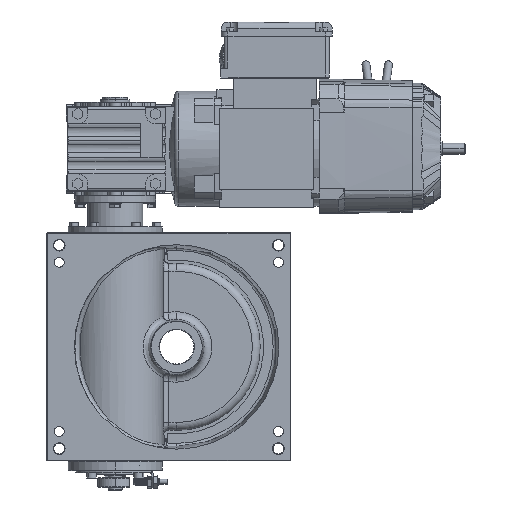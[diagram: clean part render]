
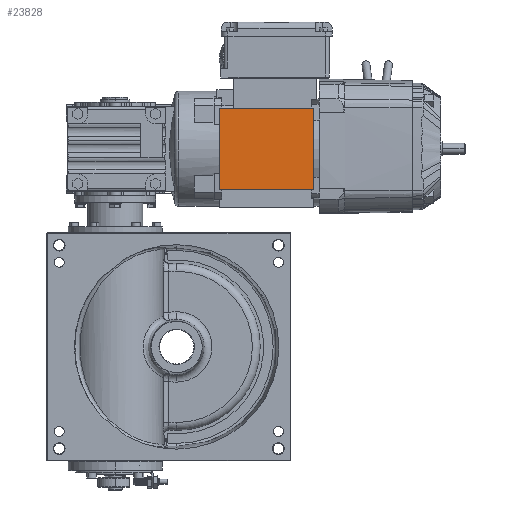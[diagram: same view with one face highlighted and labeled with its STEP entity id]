
A CAD part, front view. The second image highlights one B-rep face of the part: STEP entity #23828.
In plain terms, the highlighted planar face has unit normal (0, -1, 0).
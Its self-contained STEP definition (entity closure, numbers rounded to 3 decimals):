
#334 = LINE ( 'NONE', #1633, #81609 ) ;
#1633 = CARTESIAN_POINT ( 'NONE',  ( 139.5, -31., 243. ) ) ;
#4055 = DIRECTION ( 'NONE',  ( 0., 0., 1. ) ) ;
#5871 = VERTEX_POINT ( 'NONE', #32139 ) ;
#7598 = LINE ( 'NONE', #62001, #28320 ) ;
#8475 = DIRECTION ( 'NONE',  ( -1., 0., 0. ) ) ;
#9428 = CARTESIAN_POINT ( 'NONE',  ( 43.5, -31., 160. ) ) ;
#16356 = ORIENTED_EDGE ( 'NONE', *, *, #74378, .T. ) ;
#18854 = EDGE_CURVE ( 'NONE', #72340, #33586, #77863, .T. ) ;
#20974 = CARTESIAN_POINT ( 'NONE',  ( 139.5, -31., 243. ) ) ;
#22687 = ORIENTED_EDGE ( 'NONE', *, *, #80520, .F. ) ;
#23482 = VECTOR ( 'NONE', #4055, 1000. ) ;
#23828 = ADVANCED_FACE ( 'NONE', ( #75179 ), #47815, .T. ) ;
#28320 = VECTOR ( 'NONE', #8475, 1000. ) ;
#29405 = EDGE_LOOP ( 'NONE', ( #70709, #22687, #50949, #16356 ) ) ;
#30612 = LINE ( 'NONE', #9428, #58373 ) ;
#32139 = CARTESIAN_POINT ( 'NONE',  ( 43.5, -31., 160. ) ) ;
#33586 = VERTEX_POINT ( 'NONE', #20974 ) ;
#42380 = DIRECTION ( 'NONE',  ( -1., 0., 0. ) ) ;
#45680 = VERTEX_POINT ( 'NONE', #70840 ) ;
#47815 = PLANE ( 'NONE',  #73540 ) ;
#47885 = EDGE_CURVE ( 'NONE', #5871, #45680, #30612, .T. ) ;
#50949 = ORIENTED_EDGE ( 'NONE', *, *, #18854, .T. ) ;
#56719 = DIRECTION ( 'NONE',  ( 0., 0., 1. ) ) ;
#58373 = VECTOR ( 'NONE', #56719, 1000. ) ;
#62001 = CARTESIAN_POINT ( 'NONE',  ( 139.5, -31., 160. ) ) ;
#63783 = CARTESIAN_POINT ( 'NONE',  ( 139.5, -31., 160. ) ) ;
#64143 = CARTESIAN_POINT ( 'NONE',  ( 139.5, -31., 160. ) ) ;
#68146 = CARTESIAN_POINT ( 'NONE',  ( 139.5, -31., 160. ) ) ;
#69870 = DIRECTION ( 'NONE',  ( 0., -1., 0. ) ) ;
#70709 = ORIENTED_EDGE ( 'NONE', *, *, #47885, .F. ) ;
#70840 = CARTESIAN_POINT ( 'NONE',  ( 43.5, -31., 243. ) ) ;
#72340 = VERTEX_POINT ( 'NONE', #68146 ) ;
#73540 = AXIS2_PLACEMENT_3D ( 'NONE', #64143, #69870, #83522 ) ;
#74378 = EDGE_CURVE ( 'NONE', #33586, #45680, #334, .T. ) ;
#75179 = FACE_OUTER_BOUND ( 'NONE', #29405, .T. ) ;
#77863 = LINE ( 'NONE', #63783, #23482 ) ;
#80520 = EDGE_CURVE ( 'NONE', #72340, #5871, #7598, .T. ) ;
#81609 = VECTOR ( 'NONE', #42380, 1000. ) ;
#83522 = DIRECTION ( 'NONE',  ( 0., 0., -1. ) ) ;
